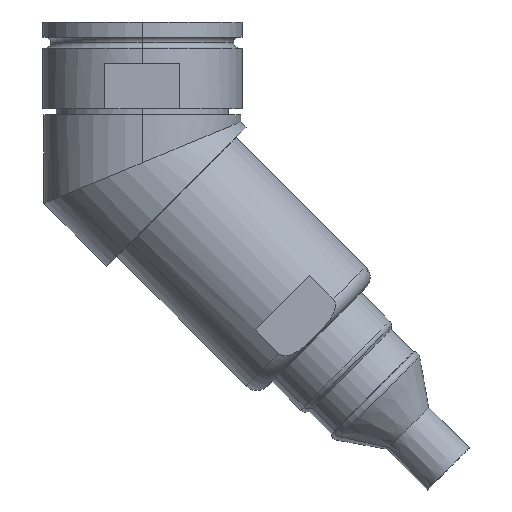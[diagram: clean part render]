
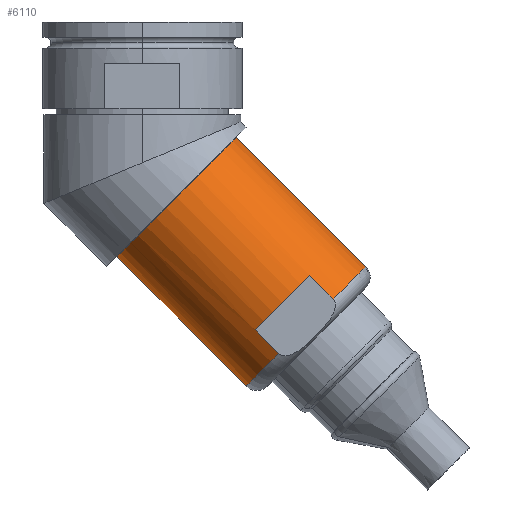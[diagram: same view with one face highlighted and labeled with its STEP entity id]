
A CAD part, left-side view. The second image highlights one B-rep face of the part: STEP entity #6110.
In plain terms, the highlighted cylindrical face has radius 17.691 mm (diameter 35.382 mm), a partial arc.
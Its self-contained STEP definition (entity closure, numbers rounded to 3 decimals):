
#11 = DIRECTION ( 'NONE',  ( 0., -0.707, -0.707 ) ) ;
#85 = ORIENTED_EDGE ( 'NONE', *, *, #2557, .F. ) ;
#182 = CIRCLE ( 'NONE', #9141, 17.691 ) ;
#443 = CIRCLE ( 'NONE', #2706, 17.691 ) ;
#641 = DIRECTION ( 'NONE',  ( 0., 0.707, 0.707 ) ) ;
#692 = VERTEX_POINT ( 'NONE', #9346 ) ;
#860 = CIRCLE ( 'NONE', #7246, 17.691 ) ;
#987 = ORIENTED_EDGE ( 'NONE', *, *, #9242, .T. ) ;
#1007 = CARTESIAN_POINT ( 'NONE',  ( 0., -46.752, -45.521 ) ) ;
#1021 = CARTESIAN_POINT ( 'NONE',  ( -15.748, -39.942, -52.331 ) ) ;
#1124 = DIRECTION ( 'NONE',  ( 0., -0.707, -0.707 ) ) ;
#1414 = ORIENTED_EDGE ( 'NONE', *, *, #2034, .F. ) ;
#1460 = VECTOR ( 'NONE', #11, 1000. ) ;
#1470 = ORIENTED_EDGE ( 'NONE', *, *, #5452, .F. ) ;
#1600 = DIRECTION ( 'NONE',  ( 0., 0.707, 0.707 ) ) ;
#1786 = EDGE_CURVE ( 'NONE', #3043, #7747, #4293, .T. ) ;
#1887 = DIRECTION ( 'NONE',  ( 0., -0.707, 0.707 ) ) ;
#2034 = EDGE_CURVE ( 'NONE', #8258, #8126, #2859, .T. ) ;
#2235 = VECTOR ( 'NONE', #8100, 1000. ) ;
#2557 = EDGE_CURVE ( 'NONE', #8536, #8258, #860, .T. ) ;
#2706 = AXIS2_PLACEMENT_3D ( 'NONE', #5491, #9112, #1887 ) ;
#2859 = LINE ( 'NONE', #2947, #1460 ) ;
#2947 = CARTESIAN_POINT ( 'NONE',  ( -15.748, -23.604, -58.792 ) ) ;
#3011 = CARTESIAN_POINT ( 'NONE',  ( -15.748, -28.543, -63.731 ) ) ;
#3043 = VERTEX_POINT ( 'NONE', #1007 ) ;
#3652 = CARTESIAN_POINT ( 'NONE',  ( 0., -29.303, -53.092 ) ) ;
#3688 = DIRECTION ( 'NONE',  ( 0., 0.707, 0.707 ) ) ;
#3875 = ORIENTED_EDGE ( 'NONE', *, *, #1786, .T. ) ;
#4020 = VECTOR ( 'NONE', #641, 1000. ) ;
#4234 = ORIENTED_EDGE ( 'NONE', *, *, #9309, .T. ) ;
#4293 = LINE ( 'NONE', #8677, #2235 ) ;
#4401 = DIRECTION ( 'NONE',  ( 0., -0.707, 0.707 ) ) ;
#4743 = CARTESIAN_POINT ( 'NONE',  ( 0., -7.212, -31. ) ) ;
#4941 = EDGE_CURVE ( 'NONE', #5714, #7747, #443, .T. ) ;
#5017 = CIRCLE ( 'NONE', #5616, 17.691 ) ;
#5452 = EDGE_CURVE ( 'NONE', #692, #5714, #8584, .T. ) ;
#5491 = CARTESIAN_POINT ( 'NONE',  ( 0., -7.212, -31. ) ) ;
#5616 = AXIS2_PLACEMENT_3D ( 'NONE', #5925, #3688, #4401 ) ;
#5623 = CARTESIAN_POINT ( 'NONE',  ( 0., 5.297, -43.51 ) ) ;
#5645 = VECTOR ( 'NONE', #1124, 1000. ) ;
#5674 = LINE ( 'NONE', #7166, #5645 ) ;
#5714 = VERTEX_POINT ( 'NONE', #8722 ) ;
#5748 = DIRECTION ( 'NONE',  ( 0., -0.707, 0.707 ) ) ;
#5925 = CARTESIAN_POINT ( 'NONE',  ( 0., -34.243, -58.031 ) ) ;
#6044 = FACE_OUTER_BOUND ( 'NONE', #9320, .T. ) ;
#6058 = CARTESIAN_POINT ( 'NONE',  ( -15.748, -23.604, -58.792 ) ) ;
#6110 = ADVANCED_FACE ( 'NONE', ( #6044 ), #8227, .T. ) ;
#6187 = DIRECTION ( 'NONE',  ( 0., 0.707, 0.707 ) ) ;
#6465 = DIRECTION ( 'NONE',  ( 0., -0.707, -0.707 ) ) ;
#6595 = CARTESIAN_POINT ( 'NONE',  ( 0., -19.722, -18.491 ) ) ;
#6884 = CARTESIAN_POINT ( 'NONE',  ( 0., -34.243, -58.031 ) ) ;
#6905 = EDGE_CURVE ( 'NONE', #692, #8126, #5017, .T. ) ;
#7001 = VERTEX_POINT ( 'NONE', #1021 ) ;
#7166 = CARTESIAN_POINT ( 'NONE',  ( -15.748, -35.003, -47.392 ) ) ;
#7246 = AXIS2_PLACEMENT_3D ( 'NONE', #3652, #6465, #5748 ) ;
#7522 = AXIS2_PLACEMENT_3D ( 'NONE', #4743, #6187, #8420 ) ;
#7747 = VERTEX_POINT ( 'NONE', #6595 ) ;
#8100 = DIRECTION ( 'NONE',  ( 0., 0.707, 0.707 ) ) ;
#8126 = VERTEX_POINT ( 'NONE', #3011 ) ;
#8227 = CYLINDRICAL_SURFACE ( 'NONE', #7522, 17.691 ) ;
#8258 = VERTEX_POINT ( 'NONE', #6058 ) ;
#8420 = DIRECTION ( 'NONE',  ( 0., -0.707, 0.707 ) ) ;
#8536 = VERTEX_POINT ( 'NONE', #8756 ) ;
#8584 = LINE ( 'NONE', #5623, #4020 ) ;
#8648 = ORIENTED_EDGE ( 'NONE', *, *, #4941, .F. ) ;
#8677 = CARTESIAN_POINT ( 'NONE',  ( 0., -19.722, -18.491 ) ) ;
#8715 = ORIENTED_EDGE ( 'NONE', *, *, #6905, .T. ) ;
#8722 = CARTESIAN_POINT ( 'NONE',  ( 0., 5.297, -43.51 ) ) ;
#8756 = CARTESIAN_POINT ( 'NONE',  ( -15.748, -35.003, -47.392 ) ) ;
#9112 = DIRECTION ( 'NONE',  ( 0., 0.707, 0.707 ) ) ;
#9141 = AXIS2_PLACEMENT_3D ( 'NONE', #6884, #1600, #9393 ) ;
#9242 = EDGE_CURVE ( 'NONE', #7001, #3043, #182, .T. ) ;
#9309 = EDGE_CURVE ( 'NONE', #8536, #7001, #5674, .T. ) ;
#9320 = EDGE_LOOP ( 'NONE', ( #1470, #8715, #1414, #85, #4234, #987, #3875, #8648 ) ) ;
#9346 = CARTESIAN_POINT ( 'NONE',  ( 0., -21.733, -70.54 ) ) ;
#9393 = DIRECTION ( 'NONE',  ( 0., -0.707, 0.707 ) ) ;
